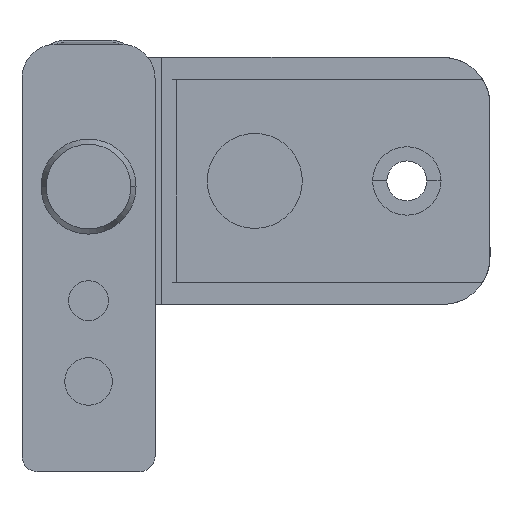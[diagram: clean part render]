
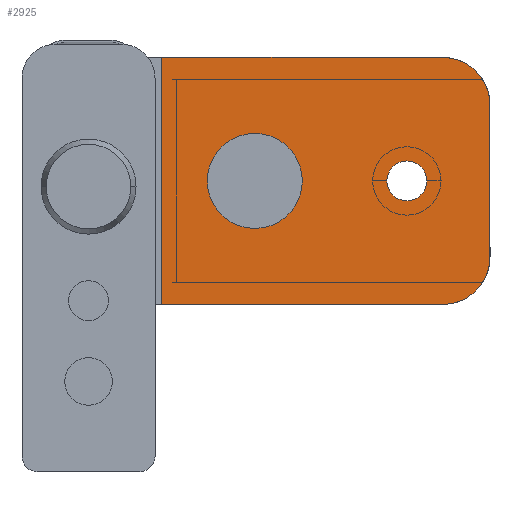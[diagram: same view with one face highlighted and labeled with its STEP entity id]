
A CAD part, front view. The second image highlights one B-rep face of the part: STEP entity #2925.
In plain terms, the highlighted planar face has unit normal (0, -1, 0).
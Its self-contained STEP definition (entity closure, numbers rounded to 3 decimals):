
#23 = VERTEX_POINT ( 'NONE', #840 ) ;
#36 = VERTEX_POINT ( 'NONE', #594 ) ;
#51 = VERTEX_POINT ( 'NONE', #609 ) ;
#54 = VERTEX_POINT ( 'NONE', #612 ) ;
#291 = CARTESIAN_POINT ( 'NONE',  ( 37.25, 597., -12.4 ) ) ;
#292 = CARTESIAN_POINT ( 'NONE',  ( 37.25, 597., 13.6 ) ) ;
#345 = CARTESIAN_POINT ( 'NONE',  ( 33.5, 597., 0.6 ) ) ;
#346 = DIRECTION ( 'NONE',  ( 0., -1., 0. ) ) ;
#347 = DIRECTION ( 'NONE',  ( 1., 0., 0. ) ) ;
#594 = CARTESIAN_POINT ( 'NONE',  ( 7.7, 597., 13.6 ) ) ;
#609 = CARTESIAN_POINT ( 'NONE',  ( 42.25, 597., -7.4 ) ) ;
#612 = CARTESIAN_POINT ( 'NONE',  ( 42.25, 597., 8.6 ) ) ;
#656 = CARTESIAN_POINT ( 'NONE',  ( 31.4, 597., 0.6 ) ) ;
#685 = EDGE_LOOP ( 'NONE', ( #2499, #2498 ) ) ;
#693 = EDGE_LOOP ( 'NONE', ( #2497, #2496, #2495, #2494, #2493, #2492 ) ) ;
#840 = CARTESIAN_POINT ( 'NONE',  ( 7.7, 597., -12.4 ) ) ;
#986 = PLANE ( 'NONE',  #2283 ) ;
#987 = CARTESIAN_POINT ( 'NONE',  ( 42.25, 597., 13.6 ) ) ;
#988 = DIRECTION ( 'NONE',  ( 0., 1., 0. ) ) ;
#989 = DIRECTION ( 'NONE',  ( 1., 0., 0. ) ) ;
#1179 = VERTEX_POINT ( 'NONE', #291 ) ;
#1180 = VERTEX_POINT ( 'NONE', #292 ) ;
#1336 = FACE_BOUND ( 'NONE', #685, .T. ) ;
#1337 = FACE_OUTER_BOUND ( 'NONE', #693, .T. ) ;
#1475 = LINE ( 'NONE', #2137, #1476 ) ;
#1476 = VECTOR ( 'NONE', #2138, 1000. ) ;
#1507 = CIRCLE ( 'NONE', #2358, 5. ) ;
#1516 = LINE ( 'NONE', #1880, #1517 ) ;
#1517 = VECTOR ( 'NONE', #1881, 1000. ) ;
#1522 = CIRCLE ( 'NONE', #2360, 2.1 ) ;
#1523 = LINE ( 'NONE', #1892, #1525 ) ;
#1524 = CIRCLE ( 'NONE', #2361, 5. ) ;
#1525 = VECTOR ( 'NONE', #1893, 1000. ) ;
#1526 = LINE ( 'NONE', #1894, #1527 ) ;
#1527 = VECTOR ( 'NONE', #1895, 1000. ) ;
#1680 = CIRCLE ( 'NONE', #2409, 2.1 ) ;
#1811 = VERTEX_POINT ( 'NONE', #656 ) ;
#1866 = CARTESIAN_POINT ( 'NONE',  ( 37.25, 597., -7.4 ) ) ;
#1867 = DIRECTION ( 'NONE',  ( 0., 1., 0. ) ) ;
#1868 = DIRECTION ( 'NONE',  ( 1., 0., 0. ) ) ;
#1880 = CARTESIAN_POINT ( 'NONE',  ( 42.25, 597., 13.6 ) ) ;
#1881 = DIRECTION ( 'NONE',  ( -1., 0., 0. ) ) ;
#1886 = CARTESIAN_POINT ( 'NONE',  ( 33.5, 597., 0.6 ) ) ;
#1887 = DIRECTION ( 'NONE',  ( 0., -1., 0. ) ) ;
#1888 = DIRECTION ( 'NONE',  ( 1., 0., 0. ) ) ;
#1889 = CARTESIAN_POINT ( 'NONE',  ( 37.25, 597., 8.6 ) ) ;
#1890 = DIRECTION ( 'NONE',  ( 0., 1., 0. ) ) ;
#1891 = DIRECTION ( 'NONE',  ( 1., 0., 0. ) ) ;
#1892 = CARTESIAN_POINT ( 'NONE',  ( 7.7, 597., 13.6 ) ) ;
#1893 = DIRECTION ( 'NONE',  ( 0., 0., -1. ) ) ;
#1894 = CARTESIAN_POINT ( 'NONE',  ( 42.25, 597., -12.4 ) ) ;
#1895 = DIRECTION ( 'NONE',  ( -1., 0., 0. ) ) ;
#2056 = CARTESIAN_POINT ( 'NONE',  ( 35.6, 597., 0.6 ) ) ;
#2137 = CARTESIAN_POINT ( 'NONE',  ( 42.25, 597., 13.6 ) ) ;
#2138 = DIRECTION ( 'NONE',  ( 0., 0., -1. ) ) ;
#2283 = AXIS2_PLACEMENT_3D ( 'NONE', #987, #988, #989 ) ;
#2358 = AXIS2_PLACEMENT_3D ( 'NONE', #1866, #1867, #1868 ) ;
#2360 = AXIS2_PLACEMENT_3D ( 'NONE', #1886, #1887, #1888 ) ;
#2361 = AXIS2_PLACEMENT_3D ( 'NONE', #1889, #1890, #1891 ) ;
#2409 = AXIS2_PLACEMENT_3D ( 'NONE', #345, #346, #347 ) ;
#2492 = ORIENTED_EDGE ( 'NONE', *, *, #3797, .F. ) ;
#2493 = ORIENTED_EDGE ( 'NONE', *, *, #3809, .F. ) ;
#2494 = ORIENTED_EDGE ( 'NONE', *, *, #3808, .T. ) ;
#2495 = ORIENTED_EDGE ( 'NONE', *, *, #3803, .T. ) ;
#2496 = ORIENTED_EDGE ( 'NONE', *, *, #3807, .F. ) ;
#2497 = ORIENTED_EDGE ( 'NONE', *, *, #3778, .F. ) ;
#2498 = ORIENTED_EDGE ( 'NONE', *, *, #3806, .F. ) ;
#2499 = ORIENTED_EDGE ( 'NONE', *, *, #3932, .F. ) ;
#2925 = ADVANCED_FACE ( 'NONE', ( #1336, #1337 ), #986, .F. ) ;
#3716 = VERTEX_POINT ( 'NONE', #2056 ) ;
#3778 = EDGE_CURVE ( 'NONE', #54, #51, #1475, .T. ) ;
#3797 = EDGE_CURVE ( 'NONE', #51, #1179, #1507, .T. ) ;
#3803 = EDGE_CURVE ( 'NONE', #1180, #36, #1516, .T. ) ;
#3806 = EDGE_CURVE ( 'NONE', #1811, #3716, #1522, .T. ) ;
#3807 = EDGE_CURVE ( 'NONE', #1180, #54, #1524, .T. ) ;
#3808 = EDGE_CURVE ( 'NONE', #36, #23, #1523, .T. ) ;
#3809 = EDGE_CURVE ( 'NONE', #1179, #23, #1526, .T. ) ;
#3932 = EDGE_CURVE ( 'NONE', #3716, #1811, #1680, .T. ) ;
